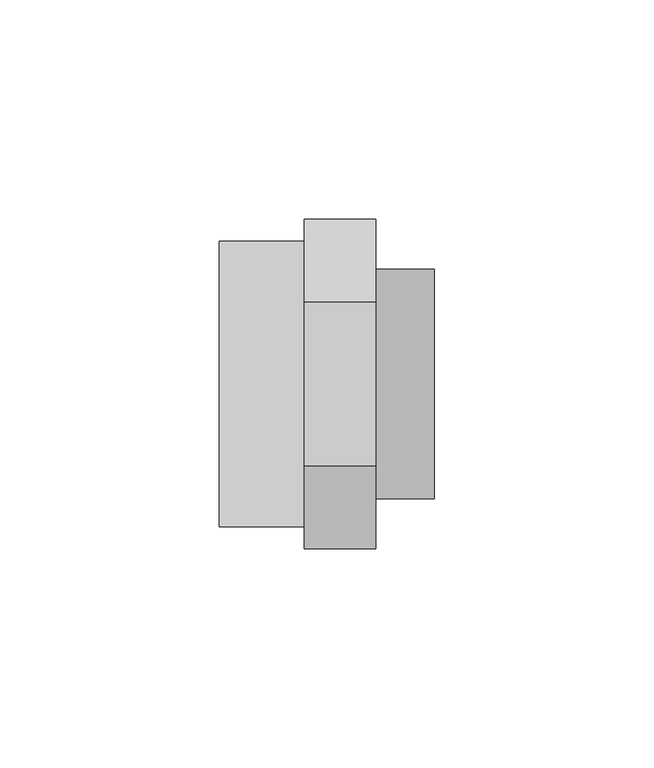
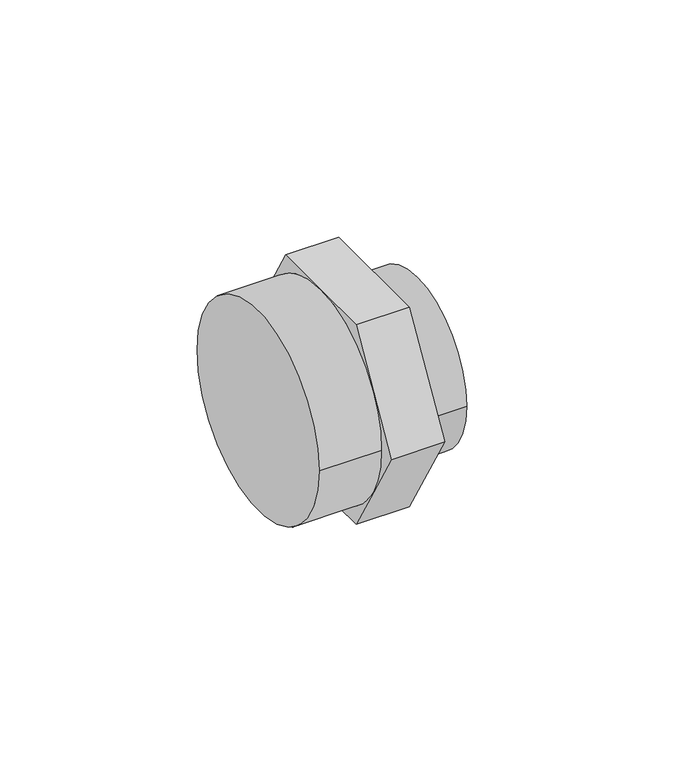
"""IFC4 building model written with IfcOpenShell, lengths in millimetres: pipe fitting geometry, 01021007 : Reducciones H/H c/ anillas de refuerzo."""

from ifc_helpers import new_model, si_unit, frame, origin, place, context, project, spatial, circle_curve, source, transform, mapped, element, save
from ifc_brep_helpers import plane_surface, cylinder_surface, advanced_brep


def pipe_fitting_7b24401c(model_context):
    return source(origin(), model_context, "Body", "AdvancedBrep", [
        advanced_brep(
        [(35.6666667, -18.7638837, 32.5), (35.6666667, -37.5277675, 0.0), (35.6666667, -18.7638837, -32.5), (35.6666667, 18.7638837, -32.5), (35.6666667, 37.5277675, 0.0), (35.6666667, 18.7638837, 32.5), (35.6666667, -26.15, 0.0), (35.6666667, 26.15, 0.0), (19.3333333, -18.7638837, 32.5), (19.3333333, 0.0, 32.5), (19.3333333, -28.1458256, 16.25), (19.3333333, 18.7638837, 32.5), (19.3333333, 28.1458256, 16.25), (19.3333333, 37.5277675, 0.0), (19.3333333, 28.1458256, -16.25), (19.3333333, 32.5, 0.0), (19.3333333, 18.7638837, -32.5), (19.3333333, 0.0, -32.5), (19.3333333, -18.7638837, -32.5), (19.3333333, -28.1458256, -16.25), (19.3333333, -37.5277675, 0.0), (19.3333333, -32.5, 0.0), (49.0, -26.15, 0.0), (49.0, 26.15, 0.0), (0.0, 32.5, 0.0), (0.0, -32.5, 0.0)],
        [
            (0, 1),
            (1, 2),
            (2, 3),
            (3, 4),
            (4, 5),
            (5, 0),
            (6, 7, circle_curve(frame((35.6666667, 0.0, 0.0), z_axis=(-1.0, 0.0, 0.0), x_axis=(0.0, 1.0, 0.0)), 26.15)),
            (7, 6, circle_curve(frame((35.6666667, 0.0, 0.0), z_axis=(-1.0, 0.0, 0.0), x_axis=(0.0, 1.0, 0.0)), 26.15)),
            (8, 9),
            (9, 10, circle_curve(frame((19.3333333, 0.0, 0.0), z_axis=(1.0, 0.0, 0.0), x_axis=(0.0, -1.0, 0.0)), 32.5)),
            (10, 8),
            (9, 11),
            (11, 12),
            (12, 9, circle_curve(frame((19.3333333, 0.0, 0.0), z_axis=(1.0, 0.0, 0.0), x_axis=(0.0, -1.0, 0.0)), 32.5)),
            (12, 13),
            (13, 14),
            (14, 15, circle_curve(frame((19.3333333, 0.0, 0.0), z_axis=(1.0, 0.0, 0.0), x_axis=(0.0, -1.0, 0.0)), 32.5)),
            (15, 12, circle_curve(frame((19.3333333, 0.0, 0.0), z_axis=(1.0, 0.0, 0.0), x_axis=(0.0, -1.0, 0.0)), 32.5)),
            (14, 16),
            (16, 17),
            (17, 14, circle_curve(frame((19.3333333, 0.0, 0.0), z_axis=(1.0, 0.0, 0.0), x_axis=(0.0, -1.0, 0.0)), 32.5)),
            (17, 18),
            (18, 19),
            (19, 17, circle_curve(frame((19.3333333, 0.0, 0.0), z_axis=(1.0, 0.0, 0.0), x_axis=(0.0, -1.0, 0.0)), 32.5)),
            (19, 20),
            (20, 10),
            (10, 21, circle_curve(frame((19.3333333, 0.0, 0.0), z_axis=(1.0, 0.0, 0.0), x_axis=(0.0, -1.0, 0.0)), 32.5)),
            (21, 19, circle_curve(frame((19.3333333, 0.0, 0.0), z_axis=(1.0, 0.0, 0.0), x_axis=(0.0, -1.0, 0.0)), 32.5)),
            (0, 8),
            (20, 1),
            (18, 2),
            (16, 3),
            (13, 4),
            (11, 5),
            (22, 23, circle_curve(frame((49.0, 0.0, 0.0), z_axis=(1.0, 0.0, 0.0), x_axis=(0.0, 1.0, 0.0)), 26.15)),
            (23, 22, circle_curve(frame((49.0, 0.0, 0.0), z_axis=(1.0, 0.0, 0.0), x_axis=(0.0, 1.0, 0.0)), 26.15)),
            (23, 7),
            (6, 22),
            (24, 25, circle_curve(frame((0.0, 0.0, 0.0), z_axis=(-1.0, 0.0, 0.0), x_axis=(0.0, -1.0, 0.0)), 32.5)),
            (25, 24, circle_curve(frame((0.0, 0.0, 0.0), z_axis=(-1.0, 0.0, 0.0), x_axis=(0.0, -1.0, 0.0)), 32.5)),
            (25, 21),
            (15, 24),
        ],
        [
            plane_surface(frame((35.6666667, -18.7638837, 32.5), z_axis=(1.0, 0.0, 0.0), x_axis=(0.0, -0.5000000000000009, -0.8660254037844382))),
            plane_surface(frame((19.3333333, -18.7638837, 32.5), z_axis=(-1.0, 0.0, 0.0), x_axis=(0.0, 0.5000000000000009, 0.8660254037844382))),
            plane_surface(frame((35.6666667, -18.7638837, 32.5), z_axis=(0.0, -0.8660254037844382, 0.5000000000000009), x_axis=(-1.0, 0.0, 0.0))),
            plane_surface(frame((35.6666667, -37.5277675, 0.0), z_axis=(0.0, -0.8660254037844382, -0.500000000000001), x_axis=(-1.0, 0.0, 0.0))),
            plane_surface(frame((35.6666667, -18.7638837, -32.5), z_axis=(0.0, 0.0, -1.0), x_axis=(-1.0, 0.0, 0.0))),
            plane_surface(frame((35.6666667, 18.7638837, -32.5), z_axis=(0.0, 0.8660254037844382, -0.500000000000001), x_axis=(-1.0, 0.0, 0.0))),
            plane_surface(frame((35.6666667, 37.5277675, 0.0), z_axis=(0.0, 0.866025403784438, 0.5000000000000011), x_axis=(-1.0, 0.0, 0.0))),
            plane_surface(frame((35.6666667, 18.7638837, 32.5), z_axis=(0.0, 0.0, 1.0), x_axis=(-1.0, 0.0, 0.0))),
            plane_surface(frame((49.0, 0.0, 0.0), z_axis=(1.0, 0.0, 0.0), x_axis=(0.0, 0.0, 1.0))),
            cylinder_surface(frame((32.0, 0.0, 0.0), z_axis=(-1.0, 0.0, 0.0), x_axis=(0.0, 1.0, 0.0)), 26.15),
            plane_surface(frame((0.0, 0.0, 0.0), z_axis=(-1.0, 0.0, 0.0), x_axis=(0.0, 0.0, 1.0))),
            cylinder_surface(frame((23.0, 0.0, 0.0), z_axis=(1.0, 0.0, 0.0), x_axis=(0.0, -1.0, 0.0)), 32.5),
        ],
        [
            (0, [[1, 2, 3, 4, 5, 6], [7, 8]]),
            (1, [[9, 10, 11]]),
            (1, [[12, 13, 14]]),
            (1, [[15, 16, 17, 18]]),
            (1, [[19, 20, 21]]),
            (1, [[22, 23, 24]]),
            (1, [[25, 26, 27, 28]]),
            (2, [[-1, 29, -11, -26, 30]]),
            (3, [[-2, -30, -25, -23, 31]]),
            (4, [[-3, -31, -22, -20, 32]]),
            (5, [[-4, -32, -19, -16, 33]]),
            (6, [[-5, -33, -15, -13, 34]]),
            (7, [[-6, -34, -12, -9, -29]]),
            (8, [[35, 36]]),
            (9, [[-36, 37, -7, 38]]),
            (9, [[-35, -38, -8, -37]]),
            (10, [[39, 40]]),
            (11, [[-40, 41, -27, -10, -14, -18, 42]]),
            (11, [[-39, -42, -17, -21, -24, -28, -41]]),
        ],
    ),
    ])


if __name__ == "__main__":
    model = new_model("IFC4")
    model_context = context("Model", 3, world=origin())
    ifc_project = project(units=[si_unit("LENGTHUNIT", "METRE", prefix="MILLI")], contexts=[model_context])
    site = spatial("IfcSite", under=ifc_project)
    building = spatial("IfcBuilding", under=site)
    placement = place(None, origin())
    pipe_fitting_shape = pipe_fitting_7b24401c(model_context)
    element("IfcPipeFitting", 1, ObjectType="01021007 : Reducciones H/H c/ anillas de refuerzo", at=placement, inside=building, context=model_context, shape_type="MappedRepresentation", body=[
        mapped(pipe_fitting_shape, transform((0.0, 0.0, 0.0), x_axis=(1.0, 0.0, 0.0), y_axis=(0.0, 1.0, 0.0), z_axis=(0.0, 0.0, 1.0))),
    ])
    save(model, "model.ifc")
